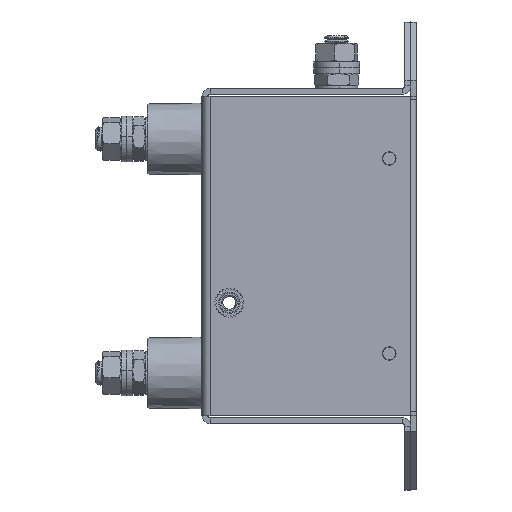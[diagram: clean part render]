
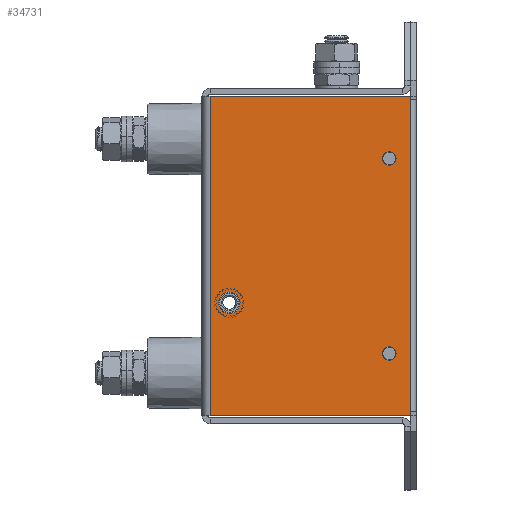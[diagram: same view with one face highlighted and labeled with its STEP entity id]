
A CAD part, left-side view. The second image highlights one B-rep face of the part: STEP entity #34731.
In plain terms, the highlighted planar face has unit normal (-1, 0, 0).
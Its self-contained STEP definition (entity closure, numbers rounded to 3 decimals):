
#547 = DIRECTION ( 'NONE',  ( 0., 0., 1. ) ) ;
#625 = CIRCLE ( 'NONE', #7102, 1.75 ) ;
#1363 = CARTESIAN_POINT ( 'NONE',  ( 0., 31., 7. ) ) ;
#1376 = CARTESIAN_POINT ( 'NONE',  ( 0., 68., 49.75 ) ) ;
#1888 = CARTESIAN_POINT ( 'NONE',  ( 0., 83.9, 53.5 ) ) ;
#2027 = EDGE_CURVE ( 'NONE', #4997, #11011, #37677, .T. ) ;
#2222 = CARTESIAN_POINT ( 'NONE',  ( 0., 83.9, 53.5 ) ) ;
#2228 = CIRCLE ( 'NONE', #36253, 2.75 ) ;
#2251 = DIRECTION ( 'NONE',  ( 0., 0., -1. ) ) ;
#2347 = PLANE ( 'NONE',  #11711 ) ;
#2410 = CARTESIAN_POINT ( 'NONE',  ( 0., 83.9, 1.5 ) ) ;
#2782 = DIRECTION ( 'NONE',  ( -1., 0., 0. ) ) ;
#3115 = CIRCLE ( 'NONE', #18005, 1.75 ) ;
#3265 = VERTEX_POINT ( 'NONE', #11719 ) ;
#3278 = CARTESIAN_POINT ( 'NONE',  ( 0., 83.9, 2.1 ) ) ;
#4163 = CARTESIAN_POINT ( 'NONE',  ( 0., 18., 46.25 ) ) ;
#4959 = ORIENTED_EDGE ( 'NONE', *, *, #5333, .F. ) ;
#4997 = VERTEX_POINT ( 'NONE', #8888 ) ;
#5037 = DIRECTION ( 'NONE',  ( 0., 0., 1. ) ) ;
#5333 = EDGE_CURVE ( 'NONE', #42257, #41936, #38001, .T. ) ;
#5538 = ORIENTED_EDGE ( 'NONE', *, *, #40704, .F. ) ;
#6029 = DIRECTION ( 'NONE',  ( 0., 0., 1. ) ) ;
#6386 = EDGE_CURVE ( 'NONE', #3265, #18348, #10146, .T. ) ;
#6809 = EDGE_LOOP ( 'NONE', ( #18804, #15009, #10613, #46737 ) ) ;
#7102 = AXIS2_PLACEMENT_3D ( 'NONE', #34977, #13180, #38647 ) ;
#8888 = CARTESIAN_POINT ( 'NONE',  ( 0., 68., 46.25 ) ) ;
#8955 = CARTESIAN_POINT ( 'NONE',  ( 0., 2.1, 2.1 ) ) ;
#9454 = DIRECTION ( 'NONE',  ( 0., -1., 0. ) ) ;
#10025 = CARTESIAN_POINT ( 'NONE',  ( 0., 68., 48. ) ) ;
#10146 = CIRCLE ( 'NONE', #23767, 1.75 ) ;
#10613 = ORIENTED_EDGE ( 'NONE', *, *, #29506, .T. ) ;
#11011 = VERTEX_POINT ( 'NONE', #1376 ) ;
#11711 = AXIS2_PLACEMENT_3D ( 'NONE', #35029, #27880, #6029 ) ;
#11719 = CARTESIAN_POINT ( 'NONE',  ( 0., 18., 49.75 ) ) ;
#11983 = CARTESIAN_POINT ( 'NONE',  ( 0., 31., 7. ) ) ;
#12319 = ORIENTED_EDGE ( 'NONE', *, *, #6386, .F. ) ;
#13180 = DIRECTION ( 'NONE',  ( -1., 0., 0. ) ) ;
#13250 = CARTESIAN_POINT ( 'NONE',  ( 0., 2.1, 53.5 ) ) ;
#13595 = EDGE_CURVE ( 'NONE', #25942, #29796, #45865, .T. ) ;
#14007 = VECTOR ( 'NONE', #9454, 1000. ) ;
#14683 = FACE_OUTER_BOUND ( 'NONE', #6809, .T. ) ;
#15009 = ORIENTED_EDGE ( 'NONE', *, *, #23613, .T. ) ;
#15798 = FACE_BOUND ( 'NONE', #28799, .T. ) ;
#16572 = DIRECTION ( 'NONE',  ( 0., 1., 0. ) ) ;
#18005 = AXIS2_PLACEMENT_3D ( 'NONE', #39936, #18103, #43560 ) ;
#18103 = DIRECTION ( 'NONE',  ( -1., 0., 0. ) ) ;
#18348 = VERTEX_POINT ( 'NONE', #4163 ) ;
#18804 = ORIENTED_EDGE ( 'NONE', *, *, #32486, .T. ) ;
#19136 = CARTESIAN_POINT ( 'NONE',  ( 0., 2.1, 1.5 ) ) ;
#19557 = VECTOR ( 'NONE', #26647, 1000. ) ;
#19613 = EDGE_CURVE ( 'NONE', #41936, #42257, #2228, .T. ) ;
#19967 = DIRECTION ( 'NONE',  ( -1., 0., 0. ) ) ;
#22510 = ORIENTED_EDGE ( 'NONE', *, *, #2027, .F. ) ;
#23613 = EDGE_CURVE ( 'NONE', #40654, #29607, #23661, .T. ) ;
#23661 = LINE ( 'NONE', #23941, #14007 ) ;
#23767 = AXIS2_PLACEMENT_3D ( 'NONE', #41803, #19967, #45432 ) ;
#23941 = CARTESIAN_POINT ( 'NONE',  ( 0., 83.9, 2.1 ) ) ;
#24350 = FACE_BOUND ( 'NONE', #36606, .T. ) ;
#25942 = VERTEX_POINT ( 'NONE', #13250 ) ;
#26647 = DIRECTION ( 'NONE',  ( 0., 0., 1. ) ) ;
#26885 = DIRECTION ( 'NONE',  ( -1., 0., 0. ) ) ;
#27880 = DIRECTION ( 'NONE',  ( -1., 0., 0. ) ) ;
#28799 = EDGE_LOOP ( 'NONE', ( #12319, #5538 ) ) ;
#29263 = LINE ( 'NONE', #19136, #19557 ) ;
#29506 = EDGE_CURVE ( 'NONE', #29607, #25942, #29263, .T. ) ;
#29607 = VERTEX_POINT ( 'NONE', #8955 ) ;
#29796 = VERTEX_POINT ( 'NONE', #2222 ) ;
#30341 = ORIENTED_EDGE ( 'NONE', *, *, #19613, .F. ) ;
#32486 = EDGE_CURVE ( 'NONE', #29796, #40654, #38175, .T. ) ;
#33771 = AXIS2_PLACEMENT_3D ( 'NONE', #11983, #44420, #46980 ) ;
#34731 = ADVANCED_FACE ( 'NONE', ( #24350, #15798, #43679, #14683 ), #2347, .T. ) ;
#34977 = CARTESIAN_POINT ( 'NONE',  ( 0., 68., 48. ) ) ;
#35029 = CARTESIAN_POINT ( 'NONE',  ( 0., 83.9, 1.5 ) ) ;
#36213 = VECTOR ( 'NONE', #16572, 1000. ) ;
#36253 = AXIS2_PLACEMENT_3D ( 'NONE', #1363, #26885, #5037 ) ;
#36284 = EDGE_LOOP ( 'NONE', ( #4959, #30341 ) ) ;
#36606 = EDGE_LOOP ( 'NONE', ( #43465, #22510 ) ) ;
#37677 = CIRCLE ( 'NONE', #41322, 1.75 ) ;
#38001 = CIRCLE ( 'NONE', #33771, 2.75 ) ;
#38175 = LINE ( 'NONE', #2410, #46731 ) ;
#38647 = DIRECTION ( 'NONE',  ( 0., 0., 1. ) ) ;
#39936 = CARTESIAN_POINT ( 'NONE',  ( 0., 18., 48. ) ) ;
#40654 = VERTEX_POINT ( 'NONE', #3278 ) ;
#40704 = EDGE_CURVE ( 'NONE', #18348, #3265, #3115, .T. ) ;
#41322 = AXIS2_PLACEMENT_3D ( 'NONE', #10025, #2782, #547 ) ;
#41803 = CARTESIAN_POINT ( 'NONE',  ( 0., 18., 48. ) ) ;
#41936 = VERTEX_POINT ( 'NONE', #45660 ) ;
#42257 = VERTEX_POINT ( 'NONE', #43875 ) ;
#43465 = ORIENTED_EDGE ( 'NONE', *, *, #44177, .F. ) ;
#43560 = DIRECTION ( 'NONE',  ( 0., 0., 1. ) ) ;
#43679 = FACE_BOUND ( 'NONE', #36284, .T. ) ;
#43875 = CARTESIAN_POINT ( 'NONE',  ( 0., 31., 9.75 ) ) ;
#44177 = EDGE_CURVE ( 'NONE', #11011, #4997, #625, .T. ) ;
#44420 = DIRECTION ( 'NONE',  ( -1., 0., 0. ) ) ;
#45432 = DIRECTION ( 'NONE',  ( 0., 0., 1. ) ) ;
#45660 = CARTESIAN_POINT ( 'NONE',  ( 0., 31., 4.25 ) ) ;
#45865 = LINE ( 'NONE', #1888, #36213 ) ;
#46731 = VECTOR ( 'NONE', #2251, 1000. ) ;
#46737 = ORIENTED_EDGE ( 'NONE', *, *, #13595, .T. ) ;
#46980 = DIRECTION ( 'NONE',  ( 0., 0., 1. ) ) ;
